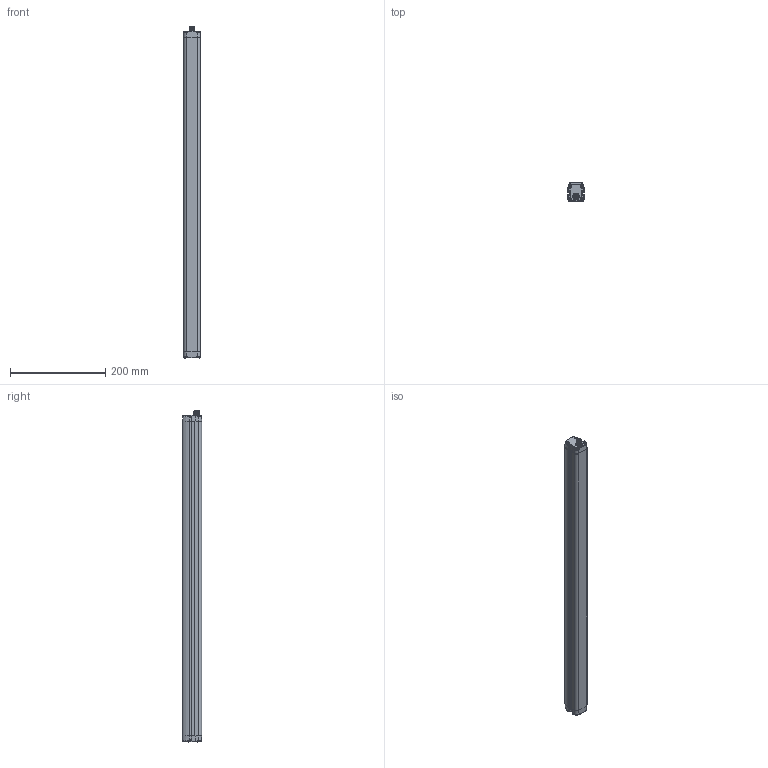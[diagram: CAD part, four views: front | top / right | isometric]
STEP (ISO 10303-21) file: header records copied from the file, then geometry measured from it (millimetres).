
FILE_DESCRIPTION(/* description */ (''),/* implementation_level */ '2;1');
FILE_NAME(/* name */ 'tx',/* time_stamp */ '2021-04-26T16:25:30+02:00',/* author */ (''),/* organization */ (''),/* preprocessor_version */ 'ST-DEVELOPER v16.7',/* originating_system */ 'SIEMENS PLM Software NX 1946',/* authorisation */ '');
FILE_SCHEMA (('AUTOMOTIVE_DESIGN { 1 0 10303 214 3 1 1 1 }'));
Length unit declared in the file: millimetre
Products named in the file (1): FGut20B8A39669vr
Bounding box: 35 x 40.1 x 697 mm (x, y, z)
Surface area: 137802.8 mm2
Topology: 3 solids, 4 shells, 731 faces, 1934 edges, 1221 vertices
Faces by surface type: plane 297, cylinder 213, cone 76, bspline 67, torus 60, revolution 8, sphere 6, extrusion 4
Full cylindrical faces by diameter (mm): 1 x4, 3 x1, 3.8 x4, 4.2 x1, 5 x8, 6 x1, 6.8 x1, 8.3 x1, 10.4 x1, 10.55 x1, 12 x7, 14 x1, 14.5 x1
Entity records: 29651 total; most frequent: CARTESIAN_POINT 9006, ORIENTED_EDGE 3686, DIRECTION 3334, EDGE_CURVE 1843, VERTEX_POINT 1208, AXIS2_PLACEMENT_3D 1198, VECTOR 930, LINE 926
